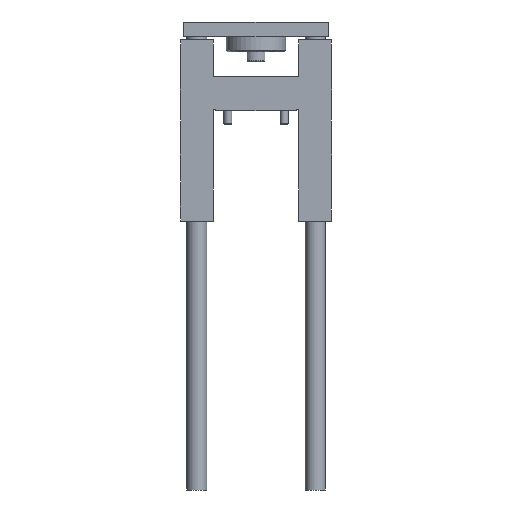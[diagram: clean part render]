
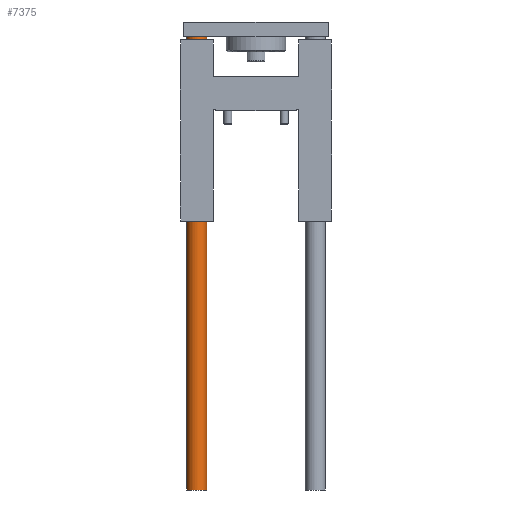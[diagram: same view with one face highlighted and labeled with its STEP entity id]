
A CAD part, front view. The second image highlights one B-rep face of the part: STEP entity #7375.
In plain terms, the highlighted cylindrical face has radius 10 mm (diameter 20 mm), a partial arc.
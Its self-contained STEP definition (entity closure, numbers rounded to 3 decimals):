
#586 = CYLINDRICAL_SURFACE ( 'NONE', #7824, 10. ) ;
#800 = VERTEX_POINT ( 'NONE', #869 ) ;
#869 = CARTESIAN_POINT ( 'NONE',  ( -49.5, 0., 74. ) ) ;
#882 = CIRCLE ( 'NONE', #2404, 10. ) ;
#940 = AXIS2_PLACEMENT_3D ( 'NONE', #2059, #5972, #3747 ) ;
#2059 = CARTESIAN_POINT ( 'NONE',  ( -59.5, 0., -381. ) ) ;
#2082 = DIRECTION ( 'NONE',  ( 0., 0., 1. ) ) ;
#2169 = VECTOR ( 'NONE', #4664, 1000. ) ;
#2197 = ORIENTED_EDGE ( 'NONE', *, *, #8849, .T. ) ;
#2404 = AXIS2_PLACEMENT_3D ( 'NONE', #3772, #2082, #7840 ) ;
#2964 = CARTESIAN_POINT ( 'NONE',  ( -59.5, 0., -381. ) ) ;
#3446 = EDGE_CURVE ( 'NONE', #7323, #5630, #8625, .T. ) ;
#3747 = DIRECTION ( 'NONE',  ( 1., 0., 0. ) ) ;
#3772 = CARTESIAN_POINT ( 'NONE',  ( -59.5, 0., 74. ) ) ;
#4334 = VECTOR ( 'NONE', #8927, 1000. ) ;
#4366 = CARTESIAN_POINT ( 'NONE',  ( -69.5, 0., -381. ) ) ;
#4539 = ORIENTED_EDGE ( 'NONE', *, *, #3446, .T. ) ;
#4664 = DIRECTION ( 'NONE',  ( 0., 0., -1. ) ) ;
#5602 = EDGE_LOOP ( 'NONE', ( #6079, #4539, #2197, #10248 ) ) ;
#5630 = VERTEX_POINT ( 'NONE', #4366 ) ;
#5756 = LINE ( 'NONE', #9864, #4334 ) ;
#5811 = EDGE_CURVE ( 'NONE', #7323, #800, #882, .T. ) ;
#5972 = DIRECTION ( 'NONE',  ( 0., 0., 1. ) ) ;
#6079 = ORIENTED_EDGE ( 'NONE', *, *, #5811, .F. ) ;
#6535 = CARTESIAN_POINT ( 'NONE',  ( -49.5, 0., -381. ) ) ;
#6934 = FACE_OUTER_BOUND ( 'NONE', #5602, .T. ) ;
#7323 = VERTEX_POINT ( 'NONE', #8997 ) ;
#7375 = ADVANCED_FACE ( 'NONE', ( #6934 ), #586, .T. ) ;
#7824 = AXIS2_PLACEMENT_3D ( 'NONE', #2964, #9255, #7826 ) ;
#7826 = DIRECTION ( 'NONE',  ( 1., 0., 0. ) ) ;
#7840 = DIRECTION ( 'NONE',  ( 1., 0., 0. ) ) ;
#8442 = VERTEX_POINT ( 'NONE', #6535 ) ;
#8625 = LINE ( 'NONE', #8671, #2169 ) ;
#8671 = CARTESIAN_POINT ( 'NONE',  ( -69.5, 0., -381. ) ) ;
#8849 = EDGE_CURVE ( 'NONE', #5630, #8442, #9045, .T. ) ;
#8927 = DIRECTION ( 'NONE',  ( 0., 0., -1. ) ) ;
#8997 = CARTESIAN_POINT ( 'NONE',  ( -69.5, 0., 74. ) ) ;
#9045 = CIRCLE ( 'NONE', #940, 10. ) ;
#9255 = DIRECTION ( 'NONE',  ( 0., 0., -1. ) ) ;
#9790 = EDGE_CURVE ( 'NONE', #800, #8442, #5756, .T. ) ;
#9864 = CARTESIAN_POINT ( 'NONE',  ( -49.5, 0., -381. ) ) ;
#10248 = ORIENTED_EDGE ( 'NONE', *, *, #9790, .F. ) ;
